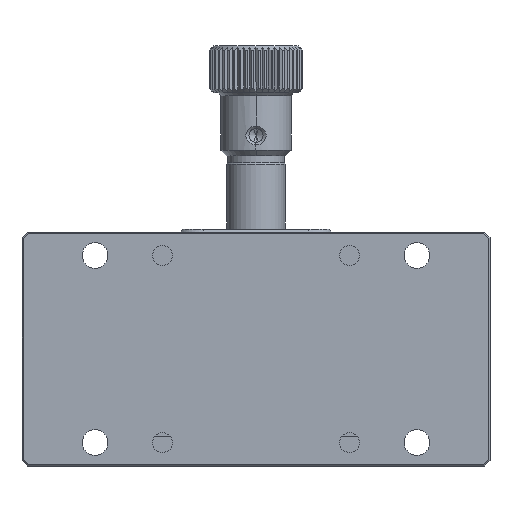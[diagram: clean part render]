
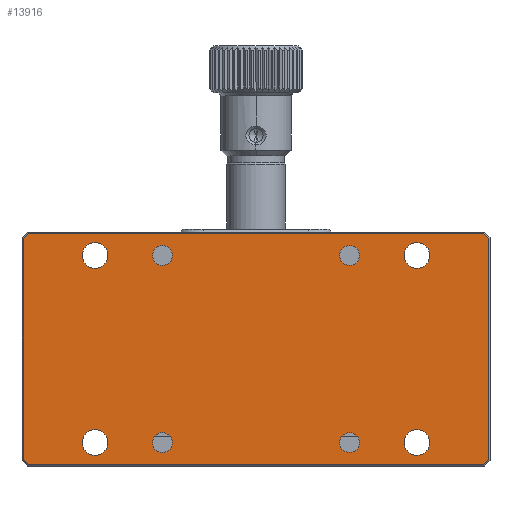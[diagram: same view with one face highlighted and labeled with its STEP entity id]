
A CAD part, front view. The second image highlights one B-rep face of the part: STEP entity #13916.
In plain terms, the highlighted planar face has unit normal (0, -1, 0).
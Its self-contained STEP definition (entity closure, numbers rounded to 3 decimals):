
#550=DIRECTION('',(0.707,0.,-0.707));
#551=VECTOR('',#550,1.249);
#552=CARTESIAN_POINT('',(-19.8,-14.5,-38.917));
#553=LINE('',#552,#551);
#554=DIRECTION('',(0.,0.,-1.));
#555=VECTOR('',#554,77.834);
#556=CARTESIAN_POINT('',(-19.8,-14.5,38.917));
#557=LINE('',#556,#555);
#558=DIRECTION('',(-0.707,0.,-0.707));
#559=VECTOR('',#558,1.249);
#560=CARTESIAN_POINT('',(-18.917,-14.5,39.8));
#561=LINE('',#560,#559);
#562=DIRECTION('',(-1.,0.,0.));
#563=VECTOR('',#562,37.834);
#564=CARTESIAN_POINT('',(18.917,-14.5,39.8));
#565=LINE('',#564,#563);
#566=DIRECTION('',(-0.707,0.,0.707));
#567=VECTOR('',#566,1.249);
#568=CARTESIAN_POINT('',(19.8,-14.5,38.917));
#569=LINE('',#568,#567);
#570=DIRECTION('',(0.,0.,1.));
#571=VECTOR('',#570,77.834);
#572=CARTESIAN_POINT('',(19.8,-14.5,-38.917));
#573=LINE('',#572,#571);
#574=DIRECTION('',(0.707,0.,0.707));
#575=VECTOR('',#574,1.249);
#576=CARTESIAN_POINT('',(18.917,-14.5,-39.8));
#577=LINE('',#576,#575);
#578=DIRECTION('',(1.,0.,0.));
#579=VECTOR('',#578,37.834);
#580=CARTESIAN_POINT('',(-18.917,-14.5,-39.8));
#581=LINE('',#580,#579);
#582=CARTESIAN_POINT('',(-16.,-14.5,-27.5));
#583=DIRECTION('',(0.,1.,0.));
#584=DIRECTION('',(1.,0.,0.));
#585=AXIS2_PLACEMENT_3D('',#582,#583,#584);
#587=CARTESIAN_POINT('',(-16.,-14.5,-27.5));
#588=DIRECTION('',(0.,1.,0.));
#589=DIRECTION('',(-1.,0.,0.));
#590=AXIS2_PLACEMENT_3D('',#587,#588,#589);
#592=CARTESIAN_POINT('',(16.,-14.5,-27.5));
#593=DIRECTION('',(0.,1.,0.));
#594=DIRECTION('',(1.,0.,0.));
#595=AXIS2_PLACEMENT_3D('',#592,#593,#594);
#597=CARTESIAN_POINT('',(16.,-14.5,-27.5));
#598=DIRECTION('',(0.,1.,0.));
#599=DIRECTION('',(-1.,0.,0.));
#600=AXIS2_PLACEMENT_3D('',#597,#598,#599);
#602=CARTESIAN_POINT('',(-16.,-14.5,27.5));
#603=DIRECTION('',(0.,1.,0.));
#604=DIRECTION('',(1.,0.,0.));
#605=AXIS2_PLACEMENT_3D('',#602,#603,#604);
#607=CARTESIAN_POINT('',(-16.,-14.5,27.5));
#608=DIRECTION('',(0.,1.,0.));
#609=DIRECTION('',(-1.,0.,0.));
#610=AXIS2_PLACEMENT_3D('',#607,#608,#609);
#612=CARTESIAN_POINT('',(16.,-14.5,27.5));
#613=DIRECTION('',(0.,1.,0.));
#614=DIRECTION('',(1.,0.,0.));
#615=AXIS2_PLACEMENT_3D('',#612,#613,#614);
#617=CARTESIAN_POINT('',(16.,-14.5,27.5));
#618=DIRECTION('',(0.,1.,0.));
#619=DIRECTION('',(-1.,0.,0.));
#620=AXIS2_PLACEMENT_3D('',#617,#618,#619);
#622=CARTESIAN_POINT('',(-16.,-14.5,-16.));
#623=DIRECTION('',(0.,1.,0.));
#624=DIRECTION('',(1.,0.,0.));
#625=AXIS2_PLACEMENT_3D('',#622,#623,#624);
#627=CARTESIAN_POINT('',(-16.,-14.5,-16.));
#628=DIRECTION('',(0.,1.,0.));
#629=DIRECTION('',(-1.,0.,0.));
#630=AXIS2_PLACEMENT_3D('',#627,#628,#629);
#632=CARTESIAN_POINT('',(16.,-14.5,-16.));
#633=DIRECTION('',(0.,1.,0.));
#634=DIRECTION('',(1.,0.,0.));
#635=AXIS2_PLACEMENT_3D('',#632,#633,#634);
#637=CARTESIAN_POINT('',(16.,-14.5,-16.));
#638=DIRECTION('',(0.,1.,0.));
#639=DIRECTION('',(-1.,0.,0.));
#640=AXIS2_PLACEMENT_3D('',#637,#638,#639);
#642=CARTESIAN_POINT('',(-16.,-14.5,16.));
#643=DIRECTION('',(0.,1.,0.));
#644=DIRECTION('',(1.,0.,0.));
#645=AXIS2_PLACEMENT_3D('',#642,#643,#644);
#647=CARTESIAN_POINT('',(-16.,-14.5,16.));
#648=DIRECTION('',(0.,1.,0.));
#649=DIRECTION('',(-1.,0.,0.));
#650=AXIS2_PLACEMENT_3D('',#647,#648,#649);
#652=CARTESIAN_POINT('',(16.,-14.5,16.));
#653=DIRECTION('',(0.,1.,0.));
#654=DIRECTION('',(1.,0.,0.));
#655=AXIS2_PLACEMENT_3D('',#652,#653,#654);
#657=CARTESIAN_POINT('',(16.,-14.5,16.));
#658=DIRECTION('',(0.,1.,0.));
#659=DIRECTION('',(-1.,0.,0.));
#660=AXIS2_PLACEMENT_3D('',#657,#658,#659);
#9817=CARTESIAN_POINT('',(-19.8,-14.5,-38.917));
#9818=CARTESIAN_POINT('',(-18.917,-14.5,-39.8));
#9819=VERTEX_POINT('',#9817);
#9820=VERTEX_POINT('',#9818);
#9827=CARTESIAN_POINT('',(18.917,-14.5,-39.8));
#9828=VERTEX_POINT('',#9827);
#9829=CARTESIAN_POINT('',(19.8,-14.5,-38.917));
#9830=VERTEX_POINT('',#9829);
#9835=CARTESIAN_POINT('',(19.8,-14.5,38.917));
#9836=VERTEX_POINT('',#9835);
#9837=CARTESIAN_POINT('',(18.917,-14.5,39.8));
#9838=VERTEX_POINT('',#9837);
#9843=CARTESIAN_POINT('',(-18.917,-14.5,39.8));
#9844=VERTEX_POINT('',#9843);
#9847=CARTESIAN_POINT('',(-19.8,-14.5,38.917));
#9848=VERTEX_POINT('',#9847);
#11237=CARTESIAN_POINT('',(-13.8,-14.5,-27.5));
#11238=CARTESIAN_POINT('',(-18.2,-14.5,-27.5));
#11239=VERTEX_POINT('',#11237);
#11240=VERTEX_POINT('',#11238);
#11241=CARTESIAN_POINT('',(18.2,-14.5,-27.5));
#11242=CARTESIAN_POINT('',(13.8,-14.5,-27.5));
#11243=VERTEX_POINT('',#11241);
#11244=VERTEX_POINT('',#11242);
#11245=CARTESIAN_POINT('',(-13.8,-14.5,27.5));
#11246=CARTESIAN_POINT('',(-18.2,-14.5,27.5));
#11247=VERTEX_POINT('',#11245);
#11248=VERTEX_POINT('',#11246);
#11249=CARTESIAN_POINT('',(18.2,-14.5,27.5));
#11250=CARTESIAN_POINT('',(13.8,-14.5,27.5));
#11251=VERTEX_POINT('',#11249);
#11252=VERTEX_POINT('',#11250);
#12985=CARTESIAN_POINT('',(-14.3,-14.5,-16.));
#12986=CARTESIAN_POINT('',(-17.7,-14.5,-16.));
#12987=VERTEX_POINT('',#12985);
#12988=VERTEX_POINT('',#12986);
#12989=CARTESIAN_POINT('',(17.7,-14.5,-16.));
#12990=CARTESIAN_POINT('',(14.3,-14.5,-16.));
#12991=VERTEX_POINT('',#12989);
#12992=VERTEX_POINT('',#12990);
#12993=CARTESIAN_POINT('',(-14.3,-14.5,16.));
#12994=CARTESIAN_POINT('',(-17.7,-14.5,16.));
#12995=VERTEX_POINT('',#12993);
#12996=VERTEX_POINT('',#12994);
#12997=CARTESIAN_POINT('',(17.7,-14.5,16.));
#12998=CARTESIAN_POINT('',(14.3,-14.5,16.));
#12999=VERTEX_POINT('',#12997);
#13000=VERTEX_POINT('',#12998);
#13846=CARTESIAN_POINT('',(0.,-14.5,0.));
#13847=DIRECTION('',(0.,1.,0.));
#13848=DIRECTION('',(1.,0.,0.));
#13849=AXIS2_PLACEMENT_3D('',#13846,#13847,#13848);
#13850=PLANE('',#13849);
#13852=ORIENTED_EDGE('',*,*,#13851,.F.);
#13854=ORIENTED_EDGE('',*,*,#13853,.F.);
#13856=ORIENTED_EDGE('',*,*,#13855,.F.);
#13858=ORIENTED_EDGE('',*,*,#13857,.F.);
#13860=ORIENTED_EDGE('',*,*,#13859,.F.);
#13862=ORIENTED_EDGE('',*,*,#13861,.F.);
#13863=ORIENTED_EDGE('',*,*,#13836,.F.);
#13865=ORIENTED_EDGE('',*,*,#13864,.F.);
#13866=EDGE_LOOP('',(#13852,#13854,#13856,#13858,#13860,#13862,#13863,#13865));
#13867=FACE_OUTER_BOUND('',#13866,.F.);
#13869=ORIENTED_EDGE('',*,*,#13868,.F.);
#13871=ORIENTED_EDGE('',*,*,#13870,.F.);
#13872=EDGE_LOOP('',(#13869,#13871));
#13873=FACE_BOUND('',#13872,.F.);
#13875=ORIENTED_EDGE('',*,*,#13874,.F.);
#13877=ORIENTED_EDGE('',*,*,#13876,.F.);
#13878=EDGE_LOOP('',(#13875,#13877));
#13879=FACE_BOUND('',#13878,.F.);
#13881=ORIENTED_EDGE('',*,*,#13880,.F.);
#13883=ORIENTED_EDGE('',*,*,#13882,.F.);
#13884=EDGE_LOOP('',(#13881,#13883));
#13885=FACE_BOUND('',#13884,.F.);
#13887=ORIENTED_EDGE('',*,*,#13886,.F.);
#13889=ORIENTED_EDGE('',*,*,#13888,.F.);
#13890=EDGE_LOOP('',(#13887,#13889));
#13891=FACE_BOUND('',#13890,.F.);
#13893=ORIENTED_EDGE('',*,*,#13892,.F.);
#13895=ORIENTED_EDGE('',*,*,#13894,.F.);
#13896=EDGE_LOOP('',(#13893,#13895));
#13897=FACE_BOUND('',#13896,.F.);
#13899=ORIENTED_EDGE('',*,*,#13898,.F.);
#13901=ORIENTED_EDGE('',*,*,#13900,.F.);
#13902=EDGE_LOOP('',(#13899,#13901));
#13903=FACE_BOUND('',#13902,.F.);
#13905=ORIENTED_EDGE('',*,*,#13904,.F.);
#13907=ORIENTED_EDGE('',*,*,#13906,.F.);
#13908=EDGE_LOOP('',(#13905,#13907));
#13909=FACE_BOUND('',#13908,.F.);
#13911=ORIENTED_EDGE('',*,*,#13910,.F.);
#13913=ORIENTED_EDGE('',*,*,#13912,.F.);
#13914=EDGE_LOOP('',(#13911,#13913));
#13915=FACE_BOUND('',#13914,.F.);
#13916=ADVANCED_FACE('',(#13867,#13873,#13879,#13885,#13891,#13897,#13903,
#13909,#13915),#13850,.F.);
#586=CIRCLE('',#585,2.2);
#591=CIRCLE('',#590,2.2);
#596=CIRCLE('',#595,2.2);
#601=CIRCLE('',#600,2.2);
#606=CIRCLE('',#605,2.2);
#611=CIRCLE('',#610,2.2);
#616=CIRCLE('',#615,2.2);
#621=CIRCLE('',#620,2.2);
#626=CIRCLE('',#625,1.7);
#631=CIRCLE('',#630,1.7);
#636=CIRCLE('',#635,1.7);
#641=CIRCLE('',#640,1.7);
#646=CIRCLE('',#645,1.7);
#651=CIRCLE('',#650,1.7);
#656=CIRCLE('',#655,1.7);
#661=CIRCLE('',#660,1.7);
#13836=EDGE_CURVE('',#9828,#9830,#577,.T.);
#13851=EDGE_CURVE('',#9819,#9820,#553,.T.);
#13853=EDGE_CURVE('',#9848,#9819,#557,.T.);
#13855=EDGE_CURVE('',#9844,#9848,#561,.T.);
#13857=EDGE_CURVE('',#9838,#9844,#565,.T.);
#13859=EDGE_CURVE('',#9836,#9838,#569,.T.);
#13861=EDGE_CURVE('',#9830,#9836,#573,.T.);
#13864=EDGE_CURVE('',#9820,#9828,#581,.T.);
#13868=EDGE_CURVE('',#11239,#11240,#586,.T.);
#13870=EDGE_CURVE('',#11240,#11239,#591,.T.);
#13874=EDGE_CURVE('',#11243,#11244,#596,.T.);
#13876=EDGE_CURVE('',#11244,#11243,#601,.T.);
#13880=EDGE_CURVE('',#11247,#11248,#606,.T.);
#13882=EDGE_CURVE('',#11248,#11247,#611,.T.);
#13886=EDGE_CURVE('',#11251,#11252,#616,.T.);
#13888=EDGE_CURVE('',#11252,#11251,#621,.T.);
#13892=EDGE_CURVE('',#12987,#12988,#626,.T.);
#13894=EDGE_CURVE('',#12988,#12987,#631,.T.);
#13898=EDGE_CURVE('',#12991,#12992,#636,.T.);
#13900=EDGE_CURVE('',#12992,#12991,#641,.T.);
#13904=EDGE_CURVE('',#12995,#12996,#646,.T.);
#13906=EDGE_CURVE('',#12996,#12995,#651,.T.);
#13910=EDGE_CURVE('',#12999,#13000,#656,.T.);
#13912=EDGE_CURVE('',#13000,#12999,#661,.T.);
